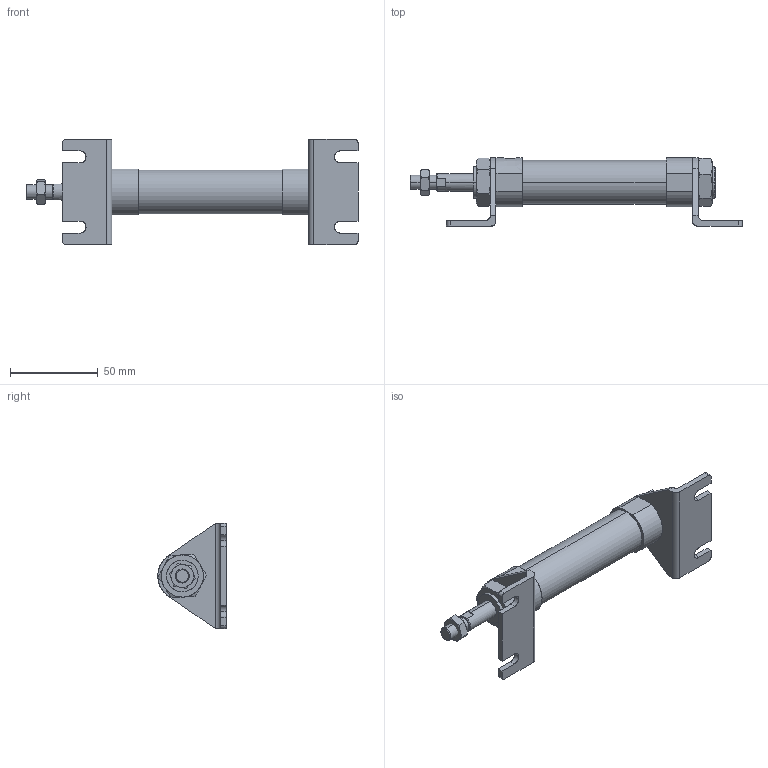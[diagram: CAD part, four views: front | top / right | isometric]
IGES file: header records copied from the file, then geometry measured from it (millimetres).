
Start section: SolidWorks IGES file using analytic representation for surfaces
Global section: file name: C:\Users\Toshiba\Desktop\J#0-20-15-L.IGS; native system: SolidWorks 2014; preprocessor: SolidWorks 2014; author: Toshiba; date: 160310.084056; units: millimetre
Bounding box: 189.2 x 39 x 60 mm (x, y, z)
Surface area: 29322.2 mm2 (no closed solid volume)
Topology: 0 solids, 0 shells, 165 faces, 2566 edges, 2566 vertices
Faces by surface type: bspline 109, revolution 56
